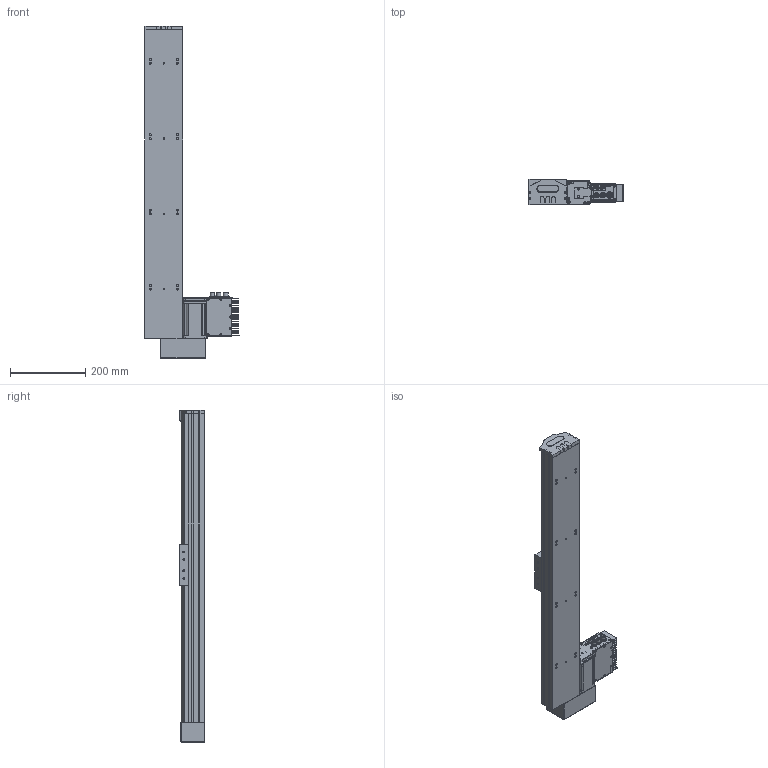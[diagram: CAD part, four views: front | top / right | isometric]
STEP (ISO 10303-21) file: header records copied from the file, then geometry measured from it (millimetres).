
FILE_DESCRIPTION (( 'STEP AP203' ), '1' );
FILE_NAME ('S 10 TSH BR S600.STEP', '2012-09-04T13:31:34', ( 'Conseil Régional Haute-Normandie' ), ( 'Conseil Régional Haute-Normandie' ), 'SwSTEP 2.0', 'SolidWorks 2010', '' );
FILE_SCHEMA (( 'CONFIG_CONTROL_DESIGN' ));
Length unit declared in the file: millimetre
Products named in the file (25): remplir_Default; Pièce2_Default; S 10 TSH BR S600; Colonnette_3; BU45 Carte d''axe A11_5; Moteur 60BLDC90A_3; Sub D 9cts 90_X2_00B_X0__3; Radiateur profil_X2_00E9_X0_ 100x25_3; renvoie LH2_Default; Vis TF 3 torkx; axe820_Default; piece_plastique remplieTSH_Default; embout_modifié; palette tbn2; Assem1_7; T_X2_00F4_X0_le contre le moteur_5; BU41 Carte Alimentation P05_3; Couvercle_3; T_X2_00F4_X0_le fond_3; Connecteur rond D10 3cts_5; Connecteur rond D12 4cts_5; Colonnette ronde_3; T_X2_00F4_X0_le Arri_X2_00E8_X0_re_5; T_X2_00F4_X0_le lat_X2_00E9_X0_rale_5; Vis TF 3 torkx_1_1
Assembly tree (55 placements, depth 3):
  S 10 TSH BR S600
    piece_plastique remplieTSH_Default
      remplir_Default  x3
      embout_modifié
      Pièce2_Default
    Vis TF 3 torkx  x7
    Assem1_7
      BU41 Carte Alimentation P05_3
      Vis TF 3 torkx_1_1  x21
      Sub D 9cts 90_X2_00B_X0__3
      Colonnette_3  x2
      BU45 Carte d''axe A11_5
      Connecteur rond D10 3cts_5  x2
      Connecteur rond D12 4cts_5
      Moteur 60BLDC90A_3
      T_X2_00F4_X0_le lat_X2_00E9_X0_rale_5  x2
      T_X2_00F4_X0_le Arri_X2_00E8_X0_re_5
      Radiateur profil_X2_00E9_X0_ 100x25_3
      Couvercle_3
      T_X2_00F4_X0_le fond_3
      Colonnette ronde_3
      T_X2_00F4_X0_le contre le moteur_5
    axe820_Default
    palette tbn2
    renvoie LH2_Default
Bounding box: 249.8 x 67.36 x 882 mm (x, y, z)
Volume: 4977089.2 mm3; surface area: 702904.3 mm2
Topology: 53 solids, 53 shells, 1974 faces, 5026 edges, 3270 vertices
Faces by surface type: plane 924, cylinder 879, cone 164, sphere 4, torus 3
Entity records: 38817 total; most frequent: CARTESIAN_POINT 6502, DIRECTION 6333, ORIENTED_EDGE 5744, EDGE_CURVE 2872, AXIS2_PLACEMENT_3D 2326, VERTEX_POINT 1882, VECTOR 1681, LINE 1681
